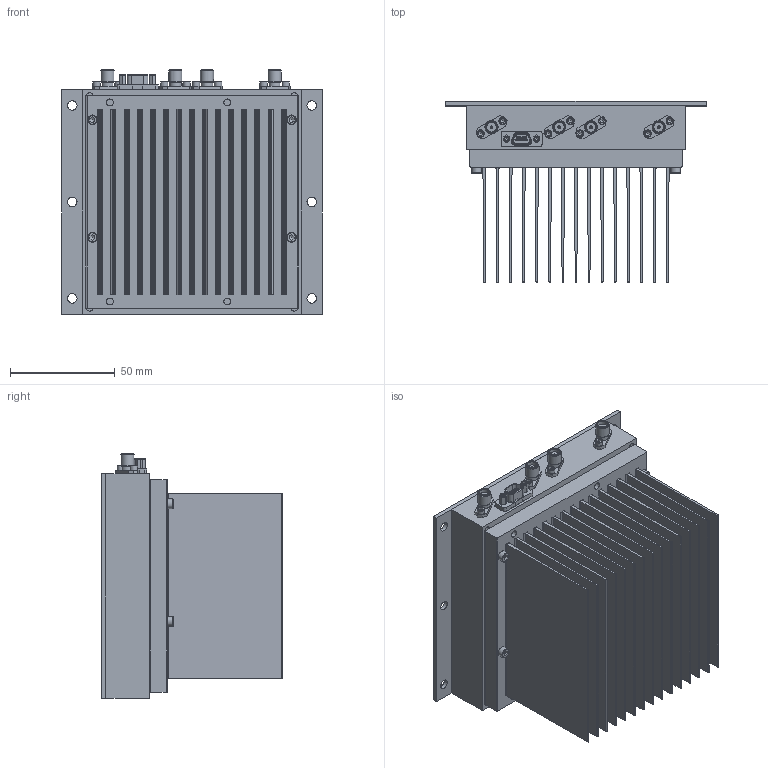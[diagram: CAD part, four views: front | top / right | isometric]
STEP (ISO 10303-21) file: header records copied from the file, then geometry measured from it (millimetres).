
FILE_DESCRIPTION((''),'2;1');
FILE_NAME('\\SERPENTOR\Engineering\ENG\Models\TTRMxxxx\TTRM1078D\Inventor\TTRM1078D\OL_132-HS.stp','2015-06-04T14:31:27',('dcampbell'),(''),'Autodesk Inventor 2013','Autodesk Inventor 2013','');
FILE_SCHEMA(('AUTOMOTIVE_DESIGN { 1 0 10303 214 1 1 1 1 }'));
Length unit declared in the file: inch
Products named in the file (10): OL_132-HS; OL_132; M7-320-9505-033; 9 pin Micro D; 410-003; Hexagon Socket Head Cap Screw - Inch No. 2 - 56 UNC - 3/16; T52145231; Hexagon Socket Head Cap Screw - Inch No. 4 - 40 UNC - 3/8; OL_132-HS_CVR; 560-440PFH0250
Assembly tree (26 placements, depth 2):
  OL_132-HS
    OL_132
    M7-320-9505-033  x2
    9 pin Micro D
    410-003  x4
    Hexagon Socket Head Cap Screw - Inch No. 2 - 56 UNC - 3/16  x8
    T52145231
    Hexagon Socket Head Cap Screw - Inch No. 4 - 40 UNC - 3/8  x4
    OL_132-HS_CVR
    560-440PFH0250  x4
Bounding box: 124.45 x 86.31 x 116.87 mm (x, y, z)
Volume: 428284.1 mm3; surface area: 235347.3 mm2
Topology: 26 solids, 26 shells, 837 faces, 2186 edges, 1517 vertices
Faces by surface type: plane 448, cylinder 248, cone 74, torus 51, bspline 16
Full cylindrical faces by diameter (mm): 0.254 x4, 0.508 x18, 0.635 x9, 0.737 x4, 0.762 x9, 1.016 x14, 1.245 x4, 1.295 x4, 1.702 x2, 2.159 x4, 2.184 x10, 2.54 x4, 2.591 x8, 2.845 x4, 3.048 x4, 3.277 x12, 3.556 x8, 4.496 x6, 4.597 x4, 4.648 x4, 5.486 x8, 6.35 x4
Entity records: 15600 total; most frequent: CARTESIAN_POINT 4117, DIRECTION 2344, ORIENTED_EDGE 2032, EDGE_CURVE 1016, AXIS2_PLACEMENT_3D 929, VERTEX_POINT 766, EDGE_LOOP 744, VECTOR 486
